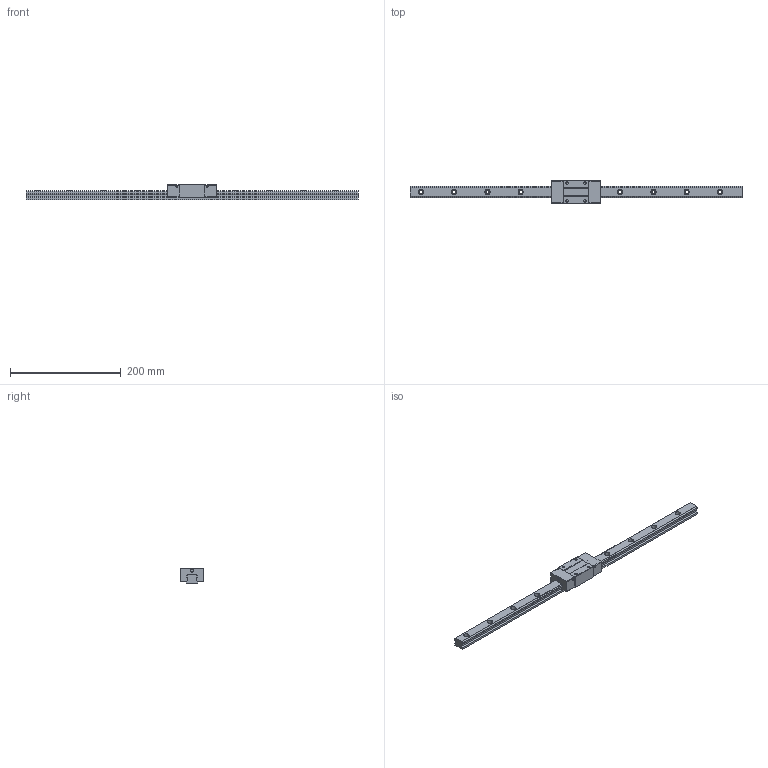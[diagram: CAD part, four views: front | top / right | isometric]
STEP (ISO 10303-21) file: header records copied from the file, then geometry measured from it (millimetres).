
FILE_DESCRIPTION (( 'STEP AP203' ), '1' );
FILE_NAME ('TRS20VN-WZ.STEP', '2024-06-12T06:32:53', ( '' ), ( '' ), 'SwSTEP 2.0', 'SolidWorks 2022', '' );
FILE_SCHEMA (( 'CONFIG_CONTROL_DESIGN' ));
Length unit declared in the file: millimetre
Products named in the file (1): TRS20VN-WZ
Bounding box: 600 x 42 x 28 mm (x, y, z)
Volume: 234128.8 mm3; surface area: 65503.3 mm2
Topology: 2 solids, 2 shells, 192 faces, 496 edges, 328 vertices
Faces by surface type: cylinder 96, plane 96
Entity records: 6023 total; most frequent: DIRECTION 1074, CARTESIAN_POINT 1017, ORIENTED_EDGE 992, EDGE_CURVE 496, AXIS2_PLACEMENT_3D 385, VERTEX_POINT 328, LINE 304, VECTOR 304
